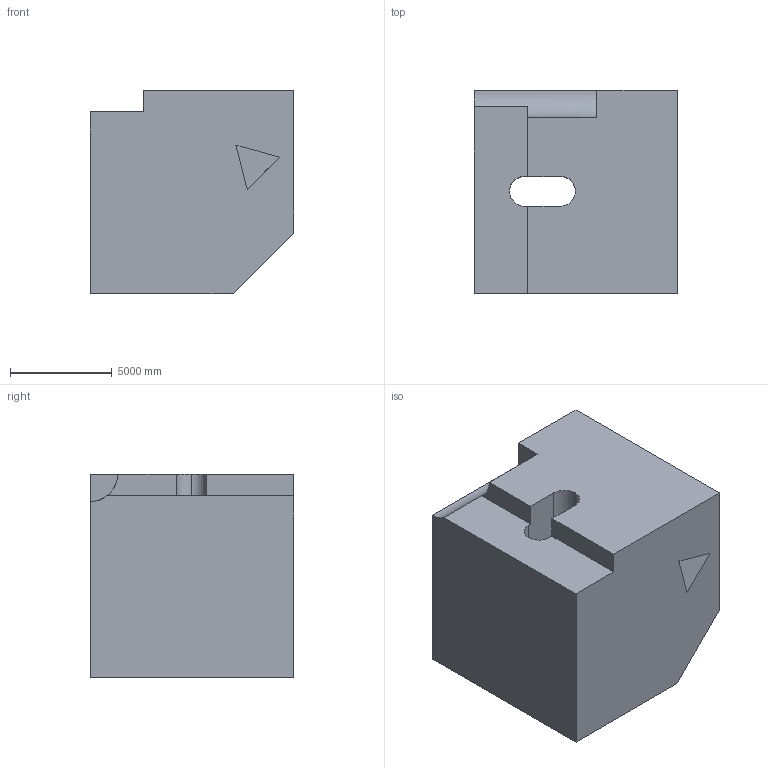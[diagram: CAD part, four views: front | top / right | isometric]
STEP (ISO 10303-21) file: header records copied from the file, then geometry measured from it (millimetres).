
FILE_DESCRIPTION (( 'STEP AP203' ), '1' );
FILE_NAME ('1595.STEP', '2022-08-18T16:02:16', ( 'user' ), ( '' ), 'SwSTEP 2.0', 'SolidWorks 2021', '' );
FILE_SCHEMA (( 'CONFIG_CONTROL_DESIGN' ));
Length unit declared in the file: centimetre
Products named in the file (1): 1595
Bounding box: 10000 x 10000 x 10000 mm (x, y, z)
Volume: 831644423427.4 mm3; surface area: 696033719.3 mm2
Topology: 1 solids, 1 shells, 26 faces, 78 edges, 52 vertices
Faces by surface type: plane 22, cylinder 4
Entity records: 956 total; most frequent: CARTESIAN_POINT 157, ORIENTED_EDGE 156, DIRECTION 141, EDGE_CURVE 78, LINE 69, VECTOR 69, VERTEX_POINT 52, AXIS2_PLACEMENT_3D 36
